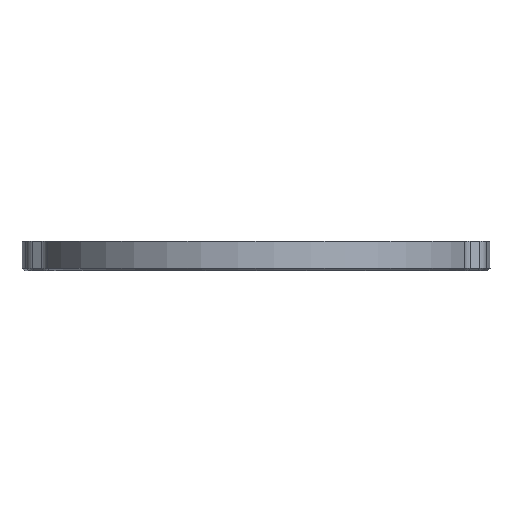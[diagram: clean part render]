
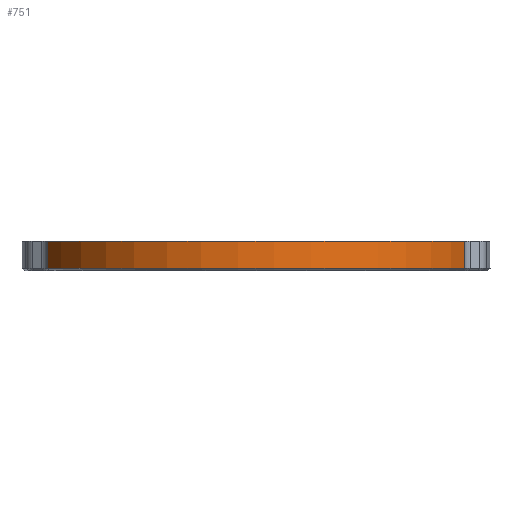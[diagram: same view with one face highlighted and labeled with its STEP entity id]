
A CAD part, front view. The second image highlights one B-rep face of the part: STEP entity #751.
In plain terms, the highlighted cylindrical face has radius 44.45 mm (diameter 88.9 mm), a partial arc.
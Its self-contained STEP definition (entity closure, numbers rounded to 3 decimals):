
#154 = AXIS2_PLACEMENT_3D ( 'NONE', #1499, #1368, #1075 ) ;
#171 = ORIENTED_EDGE ( 'NONE', *, *, #728, .T. ) ;
#326 = FACE_OUTER_BOUND ( 'NONE', #1065, .T. ) ;
#389 = CARTESIAN_POINT ( 'NONE',  ( 42.351, -13.497, 6. ) ) ;
#495 = CARTESIAN_POINT ( 'NONE',  ( 0., 0., 6. ) ) ;
#505 = CARTESIAN_POINT ( 'NONE',  ( 42.351, -13.497, 6. ) ) ;
#528 = LINE ( 'NONE', #505, #1354 ) ;
#548 = CARTESIAN_POINT ( 'NONE',  ( -42.351, -13.497, 0.5 ) ) ;
#565 = CARTESIAN_POINT ( 'NONE',  ( -42.351, -13.497, 6. ) ) ;
#601 = VECTOR ( 'NONE', #1530, 1000. ) ;
#686 = CARTESIAN_POINT ( 'NONE',  ( 0., 0., 0.5 ) ) ;
#728 = EDGE_CURVE ( 'NONE', #1038, #1184, #528, .T. ) ;
#751 = ADVANCED_FACE ( 'NONE', ( #326 ), #1459, .T. ) ;
#759 = AXIS2_PLACEMENT_3D ( 'NONE', #495, #1630, #1740 ) ;
#808 = ORIENTED_EDGE ( 'NONE', *, *, #1754, .F. ) ;
#832 = DIRECTION ( 'NONE',  ( -1., 0., 0. ) ) ;
#905 = CARTESIAN_POINT ( 'NONE',  ( -42.351, -13.497, 6. ) ) ;
#918 = CIRCLE ( 'NONE', #154, 44.45 ) ;
#944 = CIRCLE ( 'NONE', #1218, 44.45 ) ;
#960 = EDGE_CURVE ( 'NONE', #1578, #1315, #970, .T. ) ;
#970 = LINE ( 'NONE', #565, #601 ) ;
#1038 = VERTEX_POINT ( 'NONE', #1715 ) ;
#1046 = DIRECTION ( 'NONE',  ( 0., 0., 1. ) ) ;
#1065 = EDGE_LOOP ( 'NONE', ( #1468, #1669, #171, #808 ) ) ;
#1075 = DIRECTION ( 'NONE',  ( 1., 0., 0. ) ) ;
#1184 = VERTEX_POINT ( 'NONE', #389 ) ;
#1218 = AXIS2_PLACEMENT_3D ( 'NONE', #686, #1551, #832 ) ;
#1311 = EDGE_CURVE ( 'NONE', #1315, #1038, #944, .T. ) ;
#1315 = VERTEX_POINT ( 'NONE', #548 ) ;
#1354 = VECTOR ( 'NONE', #1046, 1000. ) ;
#1368 = DIRECTION ( 'NONE',  ( 0., 0., 1. ) ) ;
#1459 = CYLINDRICAL_SURFACE ( 'NONE', #759, 44.45 ) ;
#1468 = ORIENTED_EDGE ( 'NONE', *, *, #960, .T. ) ;
#1499 = CARTESIAN_POINT ( 'NONE',  ( 0., 0., 6. ) ) ;
#1530 = DIRECTION ( 'NONE',  ( 0., 0., -1. ) ) ;
#1551 = DIRECTION ( 'NONE',  ( 0., 0., 1. ) ) ;
#1578 = VERTEX_POINT ( 'NONE', #905 ) ;
#1630 = DIRECTION ( 'NONE',  ( 0., 0., -1. ) ) ;
#1669 = ORIENTED_EDGE ( 'NONE', *, *, #1311, .T. ) ;
#1715 = CARTESIAN_POINT ( 'NONE',  ( 42.351, -13.497, 0.5 ) ) ;
#1740 = DIRECTION ( 'NONE',  ( -1., 0., 0. ) ) ;
#1754 = EDGE_CURVE ( 'NONE', #1578, #1184, #918, .T. ) ;
